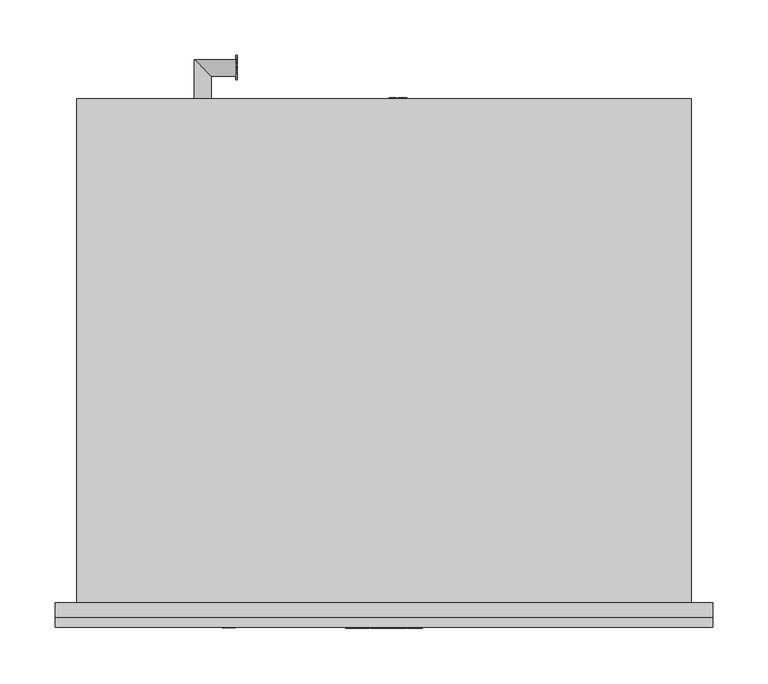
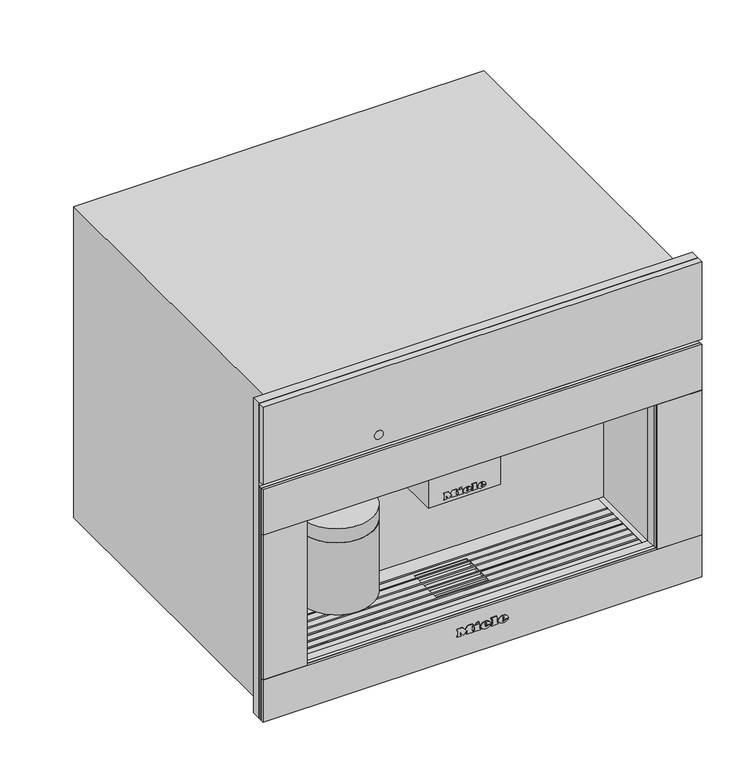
"""IFC4 building model written with IfcOpenShell, lengths in millimetres: proxy geometry, 12600410_D_CVA7845_PEBE : 29784550_D_12600410_CVA7845_PEBE."""

from ifc_helpers import new_model, si_unit, point, frame, frame_2d, origin, place, context, project, spatial, polyline, circle_curve, ellipse_curve, trimmed, segment, composite_curve, outline, extrude, faceted_brep, source, transform, mapped, element, save
from ifc_brep_helpers import plane_surface, cylinder_surface, revolved_surface, extruded_surface, advanced_brep


def specialty_equipment_d28afc98(model_context):
    return source(origin(), model_context, "Body", "SolidModel", [
        extrude(outline(composite_curve([segment(trimmed(circle_curve(frame_2d((-14.0, 36.5)), 5.0), [point((-9.0, 36.5))], [point((-19.0, 36.5))], False, "CARTESIAN"), True, "CONTINUOUS"), segment(trimmed(circle_curve(frame_2d((-14.0, 36.5)), 5.0), [point((-19.0, 36.5))], [point((-9.0, 36.5))], False, "CARTESIAN"), True, "CONTINUOUS")], self_intersect=False)), frame((0.0, 0.0, 193.0), z_axis=(0.0, 0.0, 1.0), x_axis=(1.0, 0.0, 0.0)), (0.0, 0.0, 1.0), 5.0),
        extrude(outline(composite_curve([segment(trimmed(circle_curve(frame_2d((14.0, 36.5)), 5.0), [point((19.0, 36.5))], [point((9.0, 36.5))], False, "CARTESIAN"), True, "CONTINUOUS"), segment(trimmed(circle_curve(frame_2d((14.0, 36.5)), 5.0), [point((9.0, 36.5))], [point((19.0, 36.5))], False, "CARTESIAN"), True, "CONTINUOUS")], self_intersect=False)), frame((0.0, 0.0, 193.0), z_axis=(0.0, 0.0, 1.0), x_axis=(1.0, 0.0, 0.0)), (0.0, 0.0, 1.0), 5.0),
        extrude(outline(composite_curve([segment(trimmed(circle_curve(frame_2d((-156.5, 49.5)), 50.0), [point((-106.5, 49.5))], [point((-206.5, 49.5))], False, "CARTESIAN"), True, "CONTINUOUS"), segment(trimmed(circle_curve(frame_2d((-156.5, 49.5)), 50.0), [point((-206.5, 49.5))], [point((-106.5, 49.5))], False, "CARTESIAN"), True, "CONTINUOUS")], self_intersect=False)), frame((0.0, 0.0, 100.0), z_axis=(0.0, 0.0, 1.0), x_axis=(1.0, 0.0, 0.0)), (0.0, 0.0, 1.0), 103.0),
        extrude(outline(polyline([(-49.0, 95.0), (49.0, 95.0), (49.0, 20.0), (-49.0, 20.0), (-49.0, 95.0)])), frame((0.0, 0.0, 198.0), z_axis=(0.0, 0.0, 1.0), x_axis=(1.0, 0.0, 0.0)), (0.0, 0.0, 1.0), 75.0),
        extrude(outline(polyline([(455.5, 297.5), (455.5, -297.5), (4.0, -297.5), (4.0, 297.5), (455.5, 297.5)]), holes=[polyline([(273.0, 237.5), (63.0, 237.5), (63.0, -237.5), (273.0, -237.5), (273.0, 237.5)])]), frame((0.0, -13.0, 0.0), z_axis=(0.0, 1.0, 0.0), x_axis=(0.0, 0.0, 1.0)), (0.0, 0.0, 1.0), 13.0),
        extrude(outline(polyline([(473.48348, 22.0), (473.48348, 32.045631), (474.7391839, 32.045631), (474.7391839, 27.128275), (479.8895318, 32.045631), (481.6455552, 32.045631), (477.3217155, 27.9155425), (481.8025182, 22.0), (480.267224, 22.0), (476.4314411, 27.0669613), (474.7391839, 25.4531857), (474.7391839, 22.0), (473.48348, 22.0)])), frame((-134.0, 0.0, 0.0), z_axis=(1.0, 0.0, 0.0), x_axis=(0.0, 1.0, 0.0)), (0.0, 0.0, 1.0), 1.0),
        extrude(outline(polyline([(484.5420128, 22.0), (481.8025182, 32.045631), (483.0974628, 32.045631), (484.6867131, 25.4433755), (485.1772224, 23.4053092), (485.7020674, 25.207931), (487.6935352, 32.045631), (489.5599232, 32.045631), (491.0069257, 27.0890343), (492.0835937, 23.4053092), (492.5593878, 25.3845144), (494.1633533, 32.045631), (495.4582979, 32.045631), (492.7163507, 22.0), (491.3748077, 22.0), (488.9664069, 29.7500474), (488.630408, 30.8316204), (488.2527159, 29.5293182), (486.0576866, 22.0), (484.5420128, 22.0)])), frame((-134.0, 0.0, 0.0), z_axis=(1.0, 0.0, 0.0), x_axis=(0.0, 1.0, 0.0)), (0.0, 0.0, 1.0), 1.0),
        advanced_brep(
        [(-156.5, 456.0, 27.0), (-171.5, 456.0, 27.0), (-156.5, 476.5, 27.0), (-171.5, 491.5, 27.0), (-134.0, 476.5, 27.0), (-134.0, 491.5, 27.0)],
        [
            (0, 1, circle_curve(frame((-164.0, 456.0, 27.0), z_axis=(0.0, -1.0, 0.0), x_axis=(-1.0, 0.0, 0.0)), 7.5)),
            (1, 0, circle_curve(frame((-164.0, 456.0, 27.0), z_axis=(0.0, -1.0, 0.0), x_axis=(-1.0, 0.0, 0.0)), 7.5)),
            (0, 2),
            (2, 3, ellipse_curve(frame((-164.0, 484.0, 27.0), z_axis=(-0.707106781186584, -0.7071067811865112, 0.0), x_axis=(0.7071067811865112, -0.7071067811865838, 0.0)), 10.6066017, 7.5)),
            (3, 1),
            (3, 2, ellipse_curve(frame((-164.0, 484.0, 27.0), z_axis=(-0.707106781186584, -0.7071067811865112, 0.0), x_axis=(0.7071067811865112, -0.7071067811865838, 0.0)), 10.6066017, 7.5)),
            (4, 5, circle_curve(frame((-134.0, 484.0, 27.0), z_axis=(1.0, 0.0, 0.0), x_axis=(0.0, 1.0, 0.0)), 7.5)),
            (5, 4, circle_curve(frame((-134.0, 484.0, 27.0), z_axis=(1.0, 0.0, 0.0), x_axis=(0.0, 1.0, 0.0)), 7.5)),
            (2, 4),
            (5, 3),
        ],
        [
            plane_surface(frame((-164.0, 456.0, 27.0), z_axis=(0.0, -1.0, 0.0), x_axis=(0.0, 0.0, 1.0))),
            cylinder_surface(frame((-164.0, 456.0, 27.0), z_axis=(0.0, -1.0, 0.0), x_axis=(-1.0, 0.0, 0.0)), 7.5),
            plane_surface(frame((-134.0, 484.0, 27.0), z_axis=(1.0, 0.0, 0.0), x_axis=(0.0, 0.0, 1.0))),
            cylinder_surface(frame((-164.0, 484.0, 27.0), z_axis=(-1.0, 0.0, 0.0), x_axis=(0.0, 1.0, 0.0)), 7.5),
        ],
        [
            (0, [[1, 2]]),
            (1, [[-1, 3, 4, 5]]),
            (1, [[-2, -5, 6, -3]]),
            (2, [[7, 8]]),
            (3, [[-4, 9, -8, 10]]),
            (3, [[-6, -10, -7, -9]]),
        ],
    ),
        extrude(outline(polyline([(97.0, 20.4012141), (107.045631, 20.4012141), (107.045631, 13.1809168), (105.7899271, 13.1809168), (105.7899271, 19.1455102), (102.8076304, 19.1455102), (102.8076304, 13.4948427), (101.5519266, 13.4948427), (101.5519266, 19.1455102), (98.2557039, 19.1455102), (98.2557039, 13.0239538), (97.0, 13.0239538), (97.0, 20.4012141)])), frame((0.0, 456.0, 0.0), z_axis=(0.0, 1.0, 0.0), x_axis=(0.0, 0.0, 1.0)), (0.0, 0.0, 1.0), 1.0),
        extrude(outline(polyline([(97.0, 11.140398), (107.045631, 11.140398), (107.045631, 9.8846941), (98.2557039, 9.8846941), (98.2557039, 4.8618786), (97.0, 4.8618786), (97.0, 11.140398)])), frame((0.0, 456.0, 0.0), z_axis=(0.0, 1.0, 0.0), x_axis=(0.0, 0.0, 1.0)), (0.0, 0.0, 1.0), 1.0),
        advanced_brep(
        [(55.0, 425.5, 102.0), (55.0, 410.5, 102.0), (20.5239538, 425.5, 102.0), (5.5239538, 410.5, 102.0), (20.5239538, 456.0, 102.0), (5.5239538, 456.0, 102.0)],
        [
            (0, 1, circle_curve(frame((55.0, 418.0, 102.0), z_axis=(1.0, 0.0, 0.0), x_axis=(0.0, -1.0, 0.0)), 7.5)),
            (1, 0, circle_curve(frame((55.0, 418.0, 102.0), z_axis=(1.0, 0.0, 0.0), x_axis=(0.0, -1.0, 0.0)), 7.5)),
            (0, 2),
            (2, 3, ellipse_curve(frame((13.0239538, 418.0, 102.0), z_axis=(0.7071067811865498, -0.7071067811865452, 0.0), x_axis=(0.7071067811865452, 0.7071067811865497, 0.0)), 10.6066017, 7.5)),
            (3, 1),
            (3, 2, ellipse_curve(frame((13.0239538, 418.0, 102.0), z_axis=(0.7071067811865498, -0.7071067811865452, 0.0), x_axis=(0.7071067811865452, 0.7071067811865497, 0.0)), 10.6066017, 7.5)),
            (4, 5, circle_curve(frame((13.0239538, 456.0, 102.0), z_axis=(0.0, 1.0, 0.0), x_axis=(-1.0, 0.0, 0.0)), 7.5)),
            (5, 4, circle_curve(frame((13.0239538, 456.0, 102.0), z_axis=(0.0, 1.0, 0.0), x_axis=(-1.0, 0.0, 0.0)), 7.5)),
            (2, 4),
            (5, 3),
        ],
        [
            plane_surface(frame((55.0, 418.0, 102.0), z_axis=(1.0, 0.0, 0.0), x_axis=(0.0, 0.0, 1.0))),
            cylinder_surface(frame((55.0, 418.0, 102.0), z_axis=(1.0, 0.0, 0.0), x_axis=(0.0, -1.0, 0.0)), 7.5),
            plane_surface(frame((13.0239538, 456.0, 102.0), z_axis=(0.0, 1.0, 0.0), x_axis=(0.0, 0.0, 1.0))),
            cylinder_surface(frame((13.0239538, 418.0, 102.0), z_axis=(0.0, -1.0, 0.0), x_axis=(-1.0, 0.0, 0.0)), 7.5),
        ],
        [
            (0, [[1, 2]]),
            (1, [[-1, 3, 4, 5]]),
            (1, [[-2, -5, 6, -3]]),
            (2, [[7, 8]]),
            (3, [[-4, 9, -8, 10]]),
            (3, [[-6, -10, -7, -9]]),
        ],
    ),
        advanced_brep(
        [(-110.0, 49.5, 252.0), (-203.0, 49.5, 252.0), (-206.5, 49.5, 223.5), (-106.5, 49.5, 223.5), (-110.0, 49.5, 273.0), (-203.0, 49.5, 273.0), (-156.5, 49.5, 273.0), (-106.5, 49.5, 203.0), (-206.5, 49.5, 203.0), (-156.5, 49.5, 203.0)],
        [
            (0, 1, circle_curve(frame((-156.5, 49.5, 252.0), z_axis=(0.0, 0.0, -1.0), x_axis=(-1.0, 0.0, 0.0)), 46.5)),
            (1, 2, circle_curve(frame((-206.7961166, 49.5, 238.0012775), z_axis=(0.0, 1.0, 0.0), x_axis=(-1.0, 0.0, 0.0)), 14.5043005)),
            (2, 3, circle_curve(frame((-156.5, 49.5, 223.5), z_axis=(0.0, 0.0, 1.0), x_axis=(-1.0, 0.0, 0.0)), 50.0)),
            (3, 0, circle_curve(frame((-106.2038834, 49.5, 238.0012775), z_axis=(0.0, 1.0, 0.0), x_axis=(1.0, 0.0, 0.0)), 14.5043005)),
            (4, 5, circle_curve(frame((-156.5, 49.5, 273.0), z_axis=(0.0, 0.0, -1.0), x_axis=(-1.0, 0.0, 0.0)), 46.5)),
            (5, 1),
            (0, 4),
            (6, 4),
            (4, 5, circle_curve(frame((-156.5, 49.5, 273.0), z_axis=(0.0, 0.0, 1.0), x_axis=(-1.0, 0.0, 0.0)), 46.5)),
            (5, 6),
            (7, 8, circle_curve(frame((-156.5, 49.5, 203.0), z_axis=(0.0, 0.0, -1.0), x_axis=(-1.0, 0.0, 0.0)), 50.0)),
            (8, 9),
            (9, 7),
            (8, 7, circle_curve(frame((-156.5, 49.5, 203.0), z_axis=(0.0, 0.0, -1.0), x_axis=(-1.0, 0.0, 0.0)), 50.0)),
            (2, 8),
            (7, 3),
            (2, 3, circle_curve(frame((-156.5, 49.5, 223.5), z_axis=(0.0, 0.0, -1.0), x_axis=(-1.0, 0.0, 0.0)), 50.0)),
            (1, 0, circle_curve(frame((-156.5, 49.5, 252.0), z_axis=(0.0, 0.0, -1.0), x_axis=(-1.0, 0.0, 0.0)), 46.5)),
        ],
        [
            revolved_surface(trimmed(ellipse_curve(frame((-206.7961166, 49.5, 238.0012775), z_axis=(0.0, -1.0, 0.0), x_axis=(-1.0, 0.0, 0.0)), 14.5043005, 14.5043005), [point((-206.5, 49.5, 223.5))], [point((-203.0, 49.5, 252.0))], True, "CARTESIAN"), (-156.5, 49.5, 388.7361736), (0.0, 0.0, 1.0)),
            cylinder_surface(frame((-156.5, 49.5, 388.7361736), z_axis=(0.0, 0.0, 1.0), x_axis=(-1.0, 0.0, 0.0)), 46.5),
            plane_surface(frame((-156.5, 49.5, 273.0), z_axis=(0.0, 0.0, 1.0), x_axis=(-1.0, 0.0, 0.0))),
            plane_surface(frame((-156.5, 49.5, 203.0), z_axis=(0.0, 0.0, -1.0), x_axis=(-1.0, 0.0, 0.0))),
            cylinder_surface(frame((-156.5, 49.5, 388.7361736), z_axis=(0.0, 0.0, 1.0), x_axis=(-1.0, 0.0, 0.0)), 50.0),
        ],
        [
            (0, [[1, 2, 3, 4]]),
            (1, [[5, 6, -1, 7]]),
            (2, [[8, 9, 10]]),
            (3, [[11, 12, 13]]),
            (3, [[14, -13, -12]]),
            (4, [[-3, 15, -11, 16]]),
            (4, [[17, -16, -14, -15]]),
            (0, [[18, -4, -17, -2]]),
            (1, [[-9, -7, -18, -6]]),
            (2, [[-10, -5, -8]]),
        ],
    ),
        faceted_brep([(229.5, 82.0925571, 60.0), (229.5, 80.0925571, 60.0), (-229.5, 80.0925571, 60.0), (-229.5, 82.0925571, 60.0), (229.5, 70.0550731, 60.0), (229.5, 68.0550731, 60.0), (-229.5, 68.0550731, 60.0), (-229.5, 70.0550731, 60.0), (229.5, 58.0175891, 60.0), (229.5, 56.0175891, 60.0), (-229.5, 56.0175891, 60.0), (-229.5, 58.0175891, 60.0), (229.5, 45.9801052, 60.0), (229.5, 43.9801052, 60.0), (-229.5, 43.9801052, 60.0), (-229.5, 45.9801052, 60.0), (229.5, 33.9426212, 60.0), (229.5, 31.9426212, 60.0), (-229.5, 31.9426212, 60.0), (-229.5, 33.9426212, 60.0), (229.5, 21.9776522, 60.0), (229.5, 19.9776522, 60.0), (-229.5, 19.9776522, 60.0), (-229.5, 21.9776522, 60.0), (229.5, 10.0, 60.0), (229.5, 8.0, 60.0), (-229.5, 8.0, 60.0), (-229.5, 10.0, 60.0), (-229.5, 45.9801052, 62.0), (-36.0, 45.9801052, 62.0), (-36.0, 45.9801052, 63.0), (-229.5, 45.9801052, 63.0), (-229.5, 45.9801052, 63.5), (229.5, 45.9801052, 63.5), (229.5, 45.9801052, 63.0), (36.0, 45.9801052, 63.0), (36.0, 45.9801052, 62.0), (229.5, 45.9801052, 62.0), (229.5, 19.9776522, 62.0), (229.5, 10.0, 62.0), (-229.5, 10.0, 62.0), (-229.5, 19.9776522, 62.0), (229.5, 43.9801052, 62.0), (229.5, 33.9426212, 62.0), (36.0, 33.9426212, 62.0), (36.0, 43.9801052, 62.0), (229.5, 56.0175891, 62.0), (36.0, 56.0175891, 62.0), (229.5, 68.0550731, 62.0), (229.5, 58.0175891, 62.0), (36.0, 58.0175891, 62.0), (36.0, 68.0550731, 62.0), (-229.5, 33.9426212, 62.0), (-229.5, 43.9801052, 62.0), (-36.0, 43.9801052, 62.0), (-36.0, 33.9426212, 62.0), (-229.5, 56.0175891, 62.0), (-36.0, 56.0175891, 62.0), (-229.5, 58.0175891, 62.0), (-229.5, 68.0550731, 62.0), (-36.0, 68.0550731, 62.0), (-36.0, 58.0175891, 62.0), (-229.5, 104.5, 62.0), (229.5, 104.5, 62.0), (229.5, 82.0925571, 62.0), (-229.5, 82.0925571, 62.0), (36.0, 76.0, 62.0), (-36.0, 76.0, 62.0), (-36.0, 70.0550731, 62.0), (-229.5, 70.0550731, 62.0), (-229.5, 80.0925571, 62.0), (229.5, 80.0925571, 62.0), (229.5, 70.0550731, 62.0), (36.0, 70.0550731, 62.0), (229.5, 0.0, 62.0), (-229.5, 0.0, 62.0), (-229.5, 8.0, 62.0), (229.5, 8.0, 62.0), (-36.0, 25.0, 62.0), (36.0, 25.0, 62.0), (36.0, 31.9426212, 62.0), (229.5, 31.9426212, 62.0), (229.5, 21.9776522, 62.0), (-229.5, 21.9776522, 62.0), (-229.5, 31.9426212, 62.0), (-36.0, 31.9426212, 62.0), (229.5, 104.5, 63.0), (-229.5, 104.5, 63.0), (-229.5, 82.0925571, 63.0), (229.5, 82.0925571, 63.0), (-229.5, 0.0, 63.0), (229.5, 0.0, 63.0), (229.5, 8.0, 63.0), (-229.5, 8.0, 63.0), (-36.0, 76.0, 63.0), (36.0, 76.0, 63.0), (36.0, 70.0550731, 63.0), (229.5, 70.0550731, 63.0), (229.5, 80.0925571, 63.0), (-229.5, 80.0925571, 63.0), (-229.5, 70.0550731, 63.0), (-36.0, 70.0550731, 63.0), (36.0, 25.0, 63.0), (-36.0, 25.0, 63.0), (-36.0, 31.9426212, 63.0), (-229.5, 31.9426212, 63.0), (-229.5, 21.9776522, 63.0), (229.5, 21.9776522, 63.0), (229.5, 31.9426212, 63.0), (36.0, 31.9426212, 63.0), (-229.5, 19.9776522, 63.0), (-229.5, 10.0, 63.0), (229.5, 10.0, 63.0), (229.5, 19.9776522, 63.0), (-229.5, 43.9801052, 63.0), (-229.5, 33.9426212, 63.0), (-36.0, 33.9426212, 63.0), (-36.0, 43.9801052, 63.0), (-229.5, 56.0175891, 63.0), (-36.0, 56.0175891, 63.0), (-229.5, 68.0550731, 63.0), (-229.5, 58.0175891, 63.0), (-36.0, 58.0175891, 63.0), (-36.0, 68.0550731, 63.0), (229.5, 33.9426212, 63.0), (229.5, 43.9801052, 63.0), (36.0, 43.9801052, 63.0), (36.0, 33.9426212, 63.0), (229.5, 56.0175891, 63.0), (36.0, 56.0175891, 63.0), (229.5, 58.0175891, 63.0), (229.5, 68.0550731, 63.0), (36.0, 68.0550731, 63.0), (36.0, 58.0175891, 63.0), (-229.5, 8.0, 63.5), (-229.5, 10.0, 63.5), (-229.5, 19.9776522, 63.5), (-229.5, 21.9776522, 63.5), (-229.5, 31.9426212, 63.5), (-229.5, 33.9426212, 63.5), (-229.5, 43.9801052, 63.5), (-229.5, 56.0175891, 63.5), (-229.5, 58.0175891, 63.5), (-229.5, 68.0550731, 63.5), (-229.5, 70.0550731, 63.5), (-229.5, 80.0925571, 63.5), (-229.5, 82.0925571, 63.5), (229.5, 82.0925571, 63.5), (229.5, 80.0925571, 63.5), (229.5, 70.0550731, 63.5), (229.5, 68.0550731, 63.5), (229.5, 58.0175891, 63.5), (229.5, 56.0175891, 63.5), (229.5, 43.9801052, 63.5), (229.5, 33.9426212, 63.5), (229.5, 31.9426212, 63.5), (229.5, 21.9776522, 63.5), (229.5, 19.9776522, 63.5), (229.5, 10.0, 63.5), (229.5, 8.0, 63.5)], [[[0, 1, 2, 3]], [[4, 5, 6, 7]], [[8, 9, 10, 11]], [[12, 13, 14, 15]], [[16, 17, 18, 19]], [[20, 21, 22, 23]], [[24, 25, 26, 27]], [[12, 15, 28, 29, 30, 31, 32, 33, 34, 35, 36, 37]], [[38, 39, 40, 41]], [[42, 43, 44, 45]], [[46, 37, 36, 47]], [[48, 49, 50, 51]], [[52, 53, 54, 55]], [[28, 56, 57, 29]], [[58, 59, 60, 61]], [[62, 63, 64, 65]], [[66, 67, 68, 69, 70, 71, 72, 73]], [[74, 75, 76, 77]], [[78, 79, 80, 81, 82, 83, 84, 85]], [[86, 87, 88, 89]], [[90, 91, 92, 93]], [[94, 95, 96, 97, 98, 99, 100, 101]], [[102, 103, 104, 105, 106, 107, 108, 109]], [[110, 111, 112, 113]], [[114, 115, 116, 117]], [[118, 31, 30, 119]], [[120, 121, 122, 123]], [[124, 125, 126, 127]], [[34, 128, 129, 35]], [[130, 131, 132, 133]], [[63, 62, 87, 86]], [[87, 62, 65, 3, 2, 70, 69, 7, 6, 59, 58, 11, 10, 56, 28, 15, 14, 53, 52, 19, 18, 84, 83, 23, 22, 41, 40, 27, 26, 76, 75, 90, 93, 134, 135, 111, 110, 136, 137, 106, 105, 138, 139, 115, 114, 140, 32, 31, 118, 141, 142, 121, 120, 143, 144, 100, 99, 145, 146, 88]], [[75, 74, 91, 90]], [[63, 86, 89, 147, 148, 98, 97, 149, 150, 131, 130, 151, 152, 128, 34, 33, 153, 125, 124, 154, 155, 108, 107, 156, 157, 113, 112, 158, 159, 92, 91, 74, 77, 25, 24, 39, 38, 21, 20, 82, 81, 17, 16, 43, 42, 13, 12, 37, 46, 9, 8, 49, 48, 5, 4, 72, 71, 1, 0, 64]], [[66, 95, 94, 67]], [[55, 54, 117, 116]], [[29, 57, 119, 30]], [[61, 60, 123, 122]], [[67, 94, 101, 68]], [[103, 78, 85, 104]], [[78, 103, 102, 79]], [[45, 44, 127, 126]], [[47, 36, 35, 129]], [[51, 50, 133, 132]], [[95, 66, 73, 96]], [[79, 102, 109, 80]], [[158, 135, 134, 159]], [[156, 137, 136, 157]], [[154, 139, 138, 155]], [[33, 32, 140, 153]], [[151, 142, 141, 152]], [[149, 144, 143, 150]], [[147, 146, 145, 148]], [[24, 27, 40, 39]], [[135, 158, 112, 111]], [[26, 25, 77, 76]], [[159, 134, 93, 92]], [[20, 23, 83, 82]], [[137, 156, 107, 106]], [[22, 21, 38, 41]], [[157, 136, 110, 113]], [[16, 19, 52, 55, 116, 115, 139, 154, 124, 127, 44, 43]], [[18, 17, 81, 80, 109, 108, 155, 138, 105, 104, 85, 84]], [[14, 13, 42, 45, 126, 125, 153, 140, 114, 117, 54, 53]], [[8, 11, 58, 61, 122, 121, 142, 151, 130, 133, 50, 49]], [[10, 9, 46, 47, 129, 128, 152, 141, 118, 119, 57, 56]], [[4, 7, 69, 68, 101, 100, 144, 149, 97, 96, 73, 72]], [[6, 5, 48, 51, 132, 131, 150, 143, 120, 123, 60, 59]], [[0, 3, 65, 64]], [[146, 147, 89, 88]], [[2, 1, 71, 70]], [[148, 145, 99, 98]]]),
        faceted_brep([(-278.0, 456.0, 0.0), (-278.0, 0.0, 0.0), (-278.0, 0.0, 446.0), (-278.0, 456.0, 446.0), (278.0, 456.0, 0.0), (278.0, 456.0, 446.0), (278.0, 0.0, 446.0), (278.0, 0.0, 0.0), (55.0, 456.0, 133.0), (-22.0, 456.0, 133.0), (-22.0, 456.0, 89.0), (35.0, 456.0, 66.0), (55.0, 456.0, 66.0), (-36.0, 76.0, 58.0), (36.0, 76.0, 58.0), (36.0, 76.0, 62.0), (-36.0, 76.0, 62.0), (36.0, 25.0, 58.0), (-36.0, 25.0, 58.0), (-36.0, 25.0, 62.0), (36.0, 25.0, 62.0), (237.5, 0.0, 273.0), (237.5, 0.0, 63.0), (229.5, 0.0, 63.0), (229.5, 0.0, 62.0), (-229.5, 0.0, 62.0), (-229.5, 0.0, 63.0), (-237.5, 0.0, 63.0), (-237.5, 0.0, 273.0), (237.5, 104.5, 273.0), (-237.5, 104.5, 273.0), (-237.5, 104.5, 63.0), (-229.5, 104.5, 63.0), (-229.5, 104.5, 62.0), (229.5, 104.5, 62.0), (229.5, 104.5, 63.0), (237.5, 104.5, 63.0), (-22.0, 400.0, 133.0), (55.0, 400.0, 133.0), (55.0, 400.0, 66.0), (35.0, 400.0, 66.0), (-22.0, 400.0, 89.0)], [[[0, 1, 2, 3]], [[4, 5, 6, 7]], [[0, 3, 5, 4], [8, 9, 10, 11, 12]], [[13, 14, 15, 16]], [[17, 18, 19, 20]], [[3, 2, 6, 5]], [[2, 1, 7, 6], [21, 22, 23, 24, 25, 26, 27, 28]], [[1, 0, 4, 7]], [[29, 30, 31, 32, 33, 34, 35, 36]], [[29, 36, 22, 21]], [[22, 36, 35, 23]], [[31, 27, 26, 32]], [[31, 30, 28, 27]], [[30, 29, 21, 28]], [[34, 33, 25, 24], [16, 15, 20, 19]], [[25, 33, 32, 26]], [[34, 24, 23, 35]], [[14, 13, 18, 17]], [[18, 13, 16, 19]], [[14, 17, 20, 15]], [[37, 38, 39, 40, 41]], [[38, 37, 9, 8]], [[39, 38, 8, 12]], [[40, 39, 12, 11]], [[41, 40, 11, 10]], [[37, 41, 10, 9]]]),
        advanced_brep(
        [(27.088, -23.0, 36.7018), (27.088, -23.0, 37.8532), (34.7146, -23.0, 37.8532), (21.445, -23.0, 37.8532), (24.58, -23.0, 34.0), (34.5208, -23.0, 36.7018), (31.078, -23.0, 36.7018), (28.3648, -23.0, 35.425), (27.088, -23.0, 39.3124), (27.088, -23.0, 40.555), (29.0374, -23.0, 40.555), (29.0374, -23.0, 39.3124), (27.088, -22.0, 36.7018), (28.3648, -22.0, 35.425), (31.078, -22.0, 36.7018), (34.5208, -22.0, 36.7018), (24.58, -22.0, 34.0), (21.445, -22.0, 37.8532), (34.7146, -22.0, 37.8532), (27.088, -22.0, 37.8532), (27.088, -22.0, 39.3124), (29.0374, -22.0, 39.3124), (29.0374, -22.0, 40.555), (27.088, -22.0, 40.555)],
        [
            (0, 1),
            (1, 2),
            (2, 3, ellipse_curve(frame((28.0798, -23.0, 37.8532), z_axis=(0.0, -1.0, 0.0), x_axis=(-1.0, 0.0, 0.0)), 6.6348, 5.4834)),
            (3, 4, circle_curve(frame((25.8568622, -23.0, 38.2408), z_axis=(0.0, -1.0, 0.0), x_axis=(0.0, 0.0, -1.0)), 4.4288556)),
            (4, 5, circle_curve(frame((27.9469808, -23.0, 41.2504), z_axis=(0.0, -1.0, 0.0), x_axis=(0.0, 0.0, -1.0)), 7.9940516)),
            (5, 6),
            (6, 7, circle_curve(frame((28.9220588, -23.0, 37.762), z_axis=(0.0, 1.0, 0.0), x_axis=(0.0, 0.0, -1.0)), 2.4025208)),
            (7, 0, circle_curve(frame((28.3648, -23.0, 36.7018), z_axis=(0.0, 1.0, 0.0), x_axis=(0.0, 0.0, -1.0)), 1.2768)),
            (8, 9),
            (9, 10, circle_curve(frame((28.0627, -23.0, 40.555), z_axis=(0.0, 1.0, 0.0), x_axis=(0.0, 0.0, -1.0)), 0.9747)),
            (10, 11),
            (11, 8),
            (12, 13, circle_curve(frame((28.3648, -22.0, 36.7018), z_axis=(0.0, -1.0, 0.0), x_axis=(0.0, 0.0, -1.0)), 1.2768)),
            (13, 14, circle_curve(frame((28.9220588, -22.0, 37.762), z_axis=(0.0, -1.0, 0.0), x_axis=(0.0, 0.0, -1.0)), 2.4025208)),
            (14, 15),
            (15, 16, circle_curve(frame((27.9469808, -22.0, 41.2504), z_axis=(0.0, 1.0, 0.0), x_axis=(0.0, 0.0, -1.0)), 7.9940516)),
            (16, 17, circle_curve(frame((25.8568622, -22.0, 38.2408), z_axis=(0.0, 1.0, 0.0), x_axis=(0.0, 0.0, -1.0)), 4.4288556)),
            (17, 18, ellipse_curve(frame((28.0798, -22.0, 37.8532), z_axis=(0.0, 1.0, 0.0), x_axis=(-1.0, 0.0, 0.0)), 6.6348, 5.4834)),
            (18, 19),
            (19, 12),
            (20, 21),
            (21, 22),
            (22, 23, circle_curve(frame((28.0627, -22.0, 40.555), z_axis=(0.0, -1.0, 0.0), x_axis=(0.0, 0.0, -1.0)), 0.9747)),
            (23, 20),
            (0, 12),
            (19, 1),
            (18, 2),
            (5, 15),
            (14, 6),
            (17, 3),
            (13, 7),
            (16, 4),
            (8, 20),
            (23, 9),
            (22, 10),
            (21, 11),
        ],
        [
            plane_surface(frame((27.088, -23.0, 37.8532), z_axis=(0.0, -1.0, 0.0), x_axis=(0.0, 0.0, 1.0))),
            plane_surface(frame((27.088, -22.0, 37.8532), z_axis=(0.0, 1.0, 0.0), x_axis=(0.0, 0.0, -1.0))),
            plane_surface(frame((27.088, -23.0, 36.7018), z_axis=(1.0, 0.0, 0.0), x_axis=(0.0, 1.0, 0.0))),
            plane_surface(frame((27.088, -23.0, 37.8532), z_axis=(0.0, 0.0, -1.0), x_axis=(0.0, 1.0, 0.0))),
            plane_surface(frame((34.5208, -23.0, 36.7018), z_axis=(0.0, 0.0, 1.0), x_axis=(0.0, 1.0, 0.0))),
            extruded_surface(trimmed(ellipse_curve(frame((28.0798, -21.0, 37.8532), z_axis=(0.0, -1.0, 0.0), x_axis=(-1.0, 0.0, 0.0)), 6.6348, 5.4834), [point((34.7146, -21.0, 37.8532))], [point((21.445, -21.0, 37.8532))], True, "CARTESIAN"), (0.0, -1.0, 0.0), 1.0),
            revolved_surface(polyline([(28.9220588, -22.0, 35.3594792), (28.9220588, -23.0, 35.3594792)]), (28.9220588, -22.0, 37.762), (0.0, 1.0, 0.0)),
            revolved_surface(polyline([(28.3648, -22.0, 35.425), (28.3648, -23.0, 35.425)]), (28.3648, -22.0, 36.7018), (0.0, 1.0, 0.0)),
            cylinder_surface(frame((25.8568622, -22.0, 38.2408), z_axis=(0.0, -1.0, 0.0), x_axis=(0.0, 0.0, -1.0)), 4.4288556),
            cylinder_surface(frame((27.9469808, -22.0, 41.2504), z_axis=(0.0, -1.0, 0.0), x_axis=(0.0, 0.0, -1.0)), 7.9940516),
            plane_surface(frame((27.088, -23.0, 39.3124), z_axis=(1.0, 0.0, 0.0), x_axis=(0.0, 1.0, 0.0))),
            revolved_surface(polyline([(28.0627, -22.0, 39.5803), (28.0627, -23.0, 39.5803)]), (28.0627, -22.0, 40.555), (0.0, 1.0, 0.0)),
            plane_surface(frame((29.0374, -23.0, 40.555), z_axis=(-1.0, 0.0, 0.0), x_axis=(0.0, 1.0, 0.0))),
            plane_surface(frame((29.0374, -23.0, 39.3124), z_axis=(0.0, 0.0, 1.0), x_axis=(0.0, 1.0, 0.0))),
        ],
        [
            (0, [[1, 2, 3, 4, 5, 6, 7, 8], [9, 10, 11, 12]]),
            (1, [[13, 14, 15, 16, 17, 18, 19, 20], [21, 22, 23, 24]]),
            (2, [[-1, 25, -20, 26]]),
            (3, [[-2, -26, -19, 27]]),
            (4, [[-6, 28, -15, 29]]),
            (5, [[-3, -27, -18, 30]]),
            (6, [[-7, -29, -14, 31]]),
            (7, [[-8, -31, -13, -25]]),
            (8, [[-4, -30, -17, 32]]),
            (9, [[-5, -32, -16, -28]]),
            (10, [[-9, 33, -24, 34]]),
            (11, [[-10, -34, -23, 35]]),
            (12, [[-11, -35, -22, 36]]),
            (13, [[-12, -36, -21, -33]]),
        ],
    ),
        advanced_brep(
        [(3.2962, -23.0, 36.7018), (3.2962, -23.0, 37.8532), (10.9228, -23.0, 37.8532), (-2.3468, -23.0, 37.8532), (0.7882, -23.0, 34.0), (10.729, -23.0, 36.7018), (7.2862, -23.0, 36.7018), (4.573, -23.0, 35.425), (3.2962, -23.0, 39.3124), (3.2962, -23.0, 40.555), (5.2456, -23.0, 40.555), (5.2456, -23.0, 39.3124), (3.2962, -22.0, 36.7018), (4.573, -22.0, 35.425), (7.2862, -22.0, 36.7018), (10.729, -22.0, 36.7018), (0.7882, -22.0, 34.0), (-2.3468, -22.0, 37.8532), (10.9228, -22.0, 37.8532), (3.2962, -22.0, 37.8532), (3.2962, -22.0, 39.3124), (5.2456, -22.0, 39.3124), (5.2456, -22.0, 40.555), (3.2962, -22.0, 40.555)],
        [
            (0, 1),
            (1, 2),
            (2, 3, ellipse_curve(frame((4.288, -23.0, 37.8532), z_axis=(0.0, -1.0, 0.0), x_axis=(-1.0, 0.0, 0.0)), 6.6348, 5.4834)),
            (3, 4, circle_curve(frame((2.0650622, -23.0, 38.2408), z_axis=(0.0, -1.0, 0.0), x_axis=(0.0, 0.0, -1.0)), 4.4288556)),
            (4, 5, circle_curve(frame((4.1551808, -23.0, 41.2504), z_axis=(0.0, -1.0, 0.0), x_axis=(0.0, 0.0, -1.0)), 7.9940516)),
            (5, 6),
            (6, 7, circle_curve(frame((5.1302588, -23.0, 37.762), z_axis=(0.0, 1.0, 0.0), x_axis=(0.0, 0.0, -1.0)), 2.4025208)),
            (7, 0, circle_curve(frame((4.573, -23.0, 36.7018), z_axis=(0.0, 1.0, 0.0), x_axis=(0.0, 0.0, -1.0)), 1.2768)),
            (8, 9),
            (9, 10, circle_curve(frame((4.2709, -23.0, 40.555), z_axis=(0.0, 1.0, 0.0), x_axis=(0.0, 0.0, -1.0)), 0.9747)),
            (10, 11),
            (11, 8),
            (12, 13, circle_curve(frame((4.573, -22.0, 36.7018), z_axis=(0.0, -1.0, 0.0), x_axis=(0.0, 0.0, -1.0)), 1.2768)),
            (13, 14, circle_curve(frame((5.1302588, -22.0, 37.762), z_axis=(0.0, -1.0, 0.0), x_axis=(0.0, 0.0, -1.0)), 2.4025208)),
            (14, 15),
            (15, 16, circle_curve(frame((4.1551808, -22.0, 41.2504), z_axis=(0.0, 1.0, 0.0), x_axis=(0.0, 0.0, -1.0)), 7.9940516)),
            (16, 17, circle_curve(frame((2.0650622, -22.0, 38.2408), z_axis=(0.0, 1.0, 0.0), x_axis=(0.0, 0.0, -1.0)), 4.4288556)),
            (17, 18, ellipse_curve(frame((4.288, -22.0, 37.8532), z_axis=(0.0, 1.0, 0.0), x_axis=(-1.0, 0.0, 0.0)), 6.6348, 5.4834)),
            (18, 19),
            (19, 12),
            (20, 21),
            (21, 22),
            (22, 23, circle_curve(frame((4.2709, -22.0, 40.555), z_axis=(0.0, -1.0, 0.0), x_axis=(0.0, 0.0, -1.0)), 0.9747)),
            (23, 20),
            (0, 12),
            (19, 1),
            (18, 2),
            (5, 15),
            (14, 6),
            (17, 3),
            (13, 7),
            (16, 4),
            (8, 20),
            (23, 9),
            (22, 10),
            (21, 11),
        ],
        [
            plane_surface(frame((3.2962, -23.0, 37.8532), z_axis=(0.0, -1.0, 0.0), x_axis=(0.0, 0.0, 1.0))),
            plane_surface(frame((3.2962, -22.0, 37.8532), z_axis=(0.0, 1.0, 0.0), x_axis=(0.0, 0.0, -1.0))),
            plane_surface(frame((3.2962, -23.0, 36.7018), z_axis=(1.0, 0.0, 0.0), x_axis=(0.0, 1.0, 0.0))),
            plane_surface(frame((3.2962, -23.0, 37.8532), z_axis=(0.0, 0.0, -1.0), x_axis=(0.0, 1.0, 0.0))),
            plane_surface(frame((10.729, -23.0, 36.7018), z_axis=(0.0, 0.0, 1.0), x_axis=(0.0, 1.0, 0.0))),
            extruded_surface(trimmed(ellipse_curve(frame((4.288, -21.0, 37.8532), z_axis=(0.0, -1.0, 0.0), x_axis=(-1.0, 0.0, 0.0)), 6.6348, 5.4834), [point((10.9228, -21.0, 37.8532))], [point((-2.3468, -21.0, 37.8532))], True, "CARTESIAN"), (0.0, -1.0, 0.0), 1.0),
            revolved_surface(polyline([(5.1302588, -22.0, 35.3594792), (5.1302588, -23.0, 35.3594792)]), (5.1302588, -22.0, 37.762), (0.0, 1.0, 0.0)),
            revolved_surface(polyline([(4.573, -22.0, 35.425), (4.573, -23.0, 35.425)]), (4.573, -22.0, 36.7018), (0.0, 1.0, 0.0)),
            cylinder_surface(frame((2.0650622, -22.0, 38.2408), z_axis=(0.0, -1.0, 0.0), x_axis=(0.0, 0.0, -1.0)), 4.4288556),
            cylinder_surface(frame((4.1551808, -22.0, 41.2504), z_axis=(0.0, -1.0, 0.0), x_axis=(0.0, 0.0, -1.0)), 7.9940516),
            plane_surface(frame((3.2962, -23.0, 39.3124), z_axis=(1.0, 0.0, 0.0), x_axis=(0.0, 1.0, 0.0))),
            revolved_surface(polyline([(4.2709, -22.0, 39.5803), (4.2709, -23.0, 39.5803)]), (4.2709, -22.0, 40.555), (0.0, 1.0, 0.0)),
            plane_surface(frame((5.2456, -23.0, 40.555), z_axis=(-1.0, 0.0, 0.0), x_axis=(0.0, 1.0, 0.0))),
            plane_surface(frame((5.2456, -23.0, 39.3124), z_axis=(0.0, 0.0, 1.0), x_axis=(0.0, 1.0, 0.0))),
        ],
        [
            (0, [[1, 2, 3, 4, 5, 6, 7, 8], [9, 10, 11, 12]]),
            (1, [[13, 14, 15, 16, 17, 18, 19, 20], [21, 22, 23, 24]]),
            (2, [[-1, 25, -20, 26]]),
            (3, [[-2, -26, -19, 27]]),
            (4, [[-6, 28, -15, 29]]),
            (5, [[-3, -27, -18, 30]]),
            (6, [[-7, -29, -14, 31]]),
            (7, [[-8, -31, -13, -25]]),
            (8, [[-4, -30, -17, 32]]),
            (9, [[-5, -32, -16, -28]]),
            (10, [[-9, 33, -24, 34]]),
            (11, [[-10, -34, -23, 35]]),
            (12, [[-11, -35, -22, 36]]),
            (13, [[-12, -36, -21, -33]]),
        ],
    ),
        extrude(outline(polyline([(44.7274, -9.164), (42.8806, -8.2976), (44.6818, -4.433), (46.5286, -5.288), (44.7274, -9.164)])), frame((0.0, -23.0, 0.0), z_axis=(0.0, 1.0, 0.0), x_axis=(0.0, 0.0, 1.0)), (0.0, 0.0, 1.0), 1.0),
        extrude(outline(polyline([(42.6298, -11.9798), (40.5892, -11.9798), (40.5892, -10.6232), (35.9152, -10.6232), (35.9152, -11.9798), (34.0, -11.9798), (34.0, -2.9852), (35.9152, -2.9852), (35.9152, -4.3076), (42.6298, -4.3076), (42.6298, -11.9798)])), frame((0.0, -23.0, 0.0), z_axis=(0.0, 1.0, 0.0), x_axis=(0.0, 0.0, 1.0)), (0.0, 0.0, 1.0), 1.0),
        extrude(outline(polyline([(43.5418, 11.5612), (43.5418, 12.9292), (35.9152, 12.9292), (35.9152, 11.5612), (34.0, 11.5612), (34.0, 20.8066), (35.9152, 20.8066), (35.9152, 19.4044), (45.4, 19.4044), (45.4, 11.5612), (43.5418, 11.5612)])), frame((0.0, -23.0, 0.0), z_axis=(0.0, 1.0, 0.0), x_axis=(0.0, 0.0, 1.0)), (0.0, 0.0, 1.0), 1.0),
        extrude(outline(polyline([(43.5418, -34.7), (43.5418, -33.3206), (35.9152, -33.3206), (35.9152, -34.7), (34.0, -34.7), (34.0, -29.684), (35.9152, -29.684), (35.9152, -31.052), (40.7429247, -31.052), (34.0, -25.9562), (40.9402223, -20.8376), (35.9152, -20.8376), (35.9152, -22.2398), (34.0, -22.2398), (34.0, -13.1426), (35.9152, -13.1426), (35.9152, -14.5904), (43.5418, -14.5904), (43.5418, -13.1426), (45.4, -13.1426), (45.4, -20.0852), (41.125, -23.414), (45.4, -26.7542), (45.4, -34.7), (43.5418, -34.7)])), frame((0.0, -23.0, 0.0), z_axis=(0.0, 1.0, 0.0), x_axis=(0.0, 0.0, 1.0)), (0.0, 0.0, 1.0), 1.0),
        advanced_brep(
        [(22.348, 19.0, 205.5278), (22.348, 19.0, 206.4772), (28.6366, 19.0, 206.4772), (17.695, 19.0, 206.4772), (20.28, 19.0, 203.3), (28.4768, 19.0, 205.5278), (25.638, 19.0, 205.5278), (23.4008, 19.0, 204.475), (22.348, 19.0, 207.6804), (22.348, 19.0, 208.705), (23.9554, 19.0, 208.705), (23.9554, 19.0, 207.6804), (22.348, 20.0, 205.5278), (23.4008, 20.0, 204.475), (25.638, 20.0, 205.5278), (28.4768, 20.0, 205.5278), (20.28, 20.0, 203.3), (17.695, 20.0, 206.4772), (28.6366, 20.0, 206.4772), (22.348, 20.0, 206.4772), (22.348, 20.0, 207.6804), (23.9554, 20.0, 207.6804), (23.9554, 20.0, 208.705), (22.348, 20.0, 208.705)],
        [
            (0, 1),
            (1, 2),
            (2, 3, ellipse_curve(frame((23.1658, 19.0, 206.4772), z_axis=(0.0, -1.0, 0.0), x_axis=(-1.0, 0.0, 0.0)), 5.4708, 4.5214)),
            (3, 4, circle_curve(frame((21.3328513, 19.0, 206.7968), z_axis=(0.0, -1.0, 0.0), x_axis=(0.0, 0.0, -1.0)), 3.6518634)),
            (4, 5, circle_curve(frame((23.0562825, 19.0, 209.2784), z_axis=(0.0, -1.0, 0.0), x_axis=(0.0, 0.0, -1.0)), 6.5915864)),
            (5, 6),
            (6, 7, circle_curve(frame((23.8602941, 19.0, 206.402), z_axis=(0.0, 1.0, 0.0), x_axis=(0.0, 0.0, -1.0)), 1.981026)),
            (7, 0, circle_curve(frame((23.4008, 19.0, 205.5278), z_axis=(0.0, 1.0, 0.0), x_axis=(0.0, 0.0, -1.0)), 1.0528)),
            (8, 9),
            (9, 10, circle_curve(frame((23.1517, 19.0, 208.705), z_axis=(0.0, 1.0, 0.0), x_axis=(0.0, 0.0, -1.0)), 0.8037)),
            (10, 11),
            (11, 8),
            (12, 13, circle_curve(frame((23.4008, 20.0, 205.5278), z_axis=(0.0, -1.0, 0.0), x_axis=(0.0, 0.0, -1.0)), 1.0528)),
            (13, 14, circle_curve(frame((23.8602941, 20.0, 206.402), z_axis=(0.0, -1.0, 0.0), x_axis=(0.0, 0.0, -1.0)), 1.981026)),
            (14, 15),
            (15, 16, circle_curve(frame((23.0562825, 20.0, 209.2784), z_axis=(0.0, 1.0, 0.0), x_axis=(0.0, 0.0, -1.0)), 6.5915864)),
            (16, 17, circle_curve(frame((21.3328513, 20.0, 206.7968), z_axis=(0.0, 1.0, 0.0), x_axis=(0.0, 0.0, -1.0)), 3.6518634)),
            (17, 18, ellipse_curve(frame((23.1658, 20.0, 206.4772), z_axis=(0.0, 1.0, 0.0), x_axis=(-1.0, 0.0, 0.0)), 5.4708, 4.5214)),
            (18, 19),
            (19, 12),
            (20, 21),
            (21, 22),
            (22, 23, circle_curve(frame((23.1517, 20.0, 208.705), z_axis=(0.0, -1.0, 0.0), x_axis=(0.0, 0.0, -1.0)), 0.8037)),
            (23, 20),
            (0, 12),
            (19, 1),
            (18, 2),
            (5, 15),
            (14, 6),
            (17, 3),
            (13, 7),
            (16, 4),
            (8, 20),
            (23, 9),
            (22, 10),
            (21, 11),
        ],
        [
            plane_surface(frame((22.348, 19.0, 206.4772), z_axis=(0.0, -1.0, 0.0), x_axis=(0.0, 0.0, 1.0))),
            plane_surface(frame((22.348, 20.0, 206.4772), z_axis=(0.0, 1.0, 0.0), x_axis=(0.0, 0.0, -1.0))),
            plane_surface(frame((22.348, 19.0, 205.5278), z_axis=(1.0, 0.0, 0.0), x_axis=(0.0, 1.0, 0.0))),
            plane_surface(frame((22.348, 19.0, 206.4772), z_axis=(0.0, 0.0, -1.0), x_axis=(0.0, 1.0, 0.0))),
            plane_surface(frame((28.4768, 19.0, 205.5278), z_axis=(0.0, 0.0, 1.0), x_axis=(0.0, 1.0, 0.0))),
            extruded_surface(trimmed(ellipse_curve(frame((23.1658, 21.0, 206.4772), z_axis=(0.0, -1.0, 0.0), x_axis=(-1.0, 0.0, 0.0)), 5.4708, 4.5214), [point((28.6366, 21.0, 206.4772))], [point((17.695, 21.0, 206.4772))], True, "CARTESIAN"), (0.0, -1.0, 0.0), 1.0),
            revolved_surface(polyline([(23.8602941, 20.0, 204.420974), (23.8602941, 19.0, 204.420974)]), (23.8602941, 20.0, 206.402), (0.0, 1.0, 0.0)),
            revolved_surface(polyline([(23.4008, 20.0, 204.47500000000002), (23.4008, 19.0, 204.47500000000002)]), (23.4008, 20.0, 205.5278), (0.0, 1.0, 0.0)),
            cylinder_surface(frame((21.3328513, 20.0, 206.7968), z_axis=(0.0, -1.0, 0.0), x_axis=(0.0, 0.0, -1.0)), 3.6518634),
            cylinder_surface(frame((23.0562825, 20.0, 209.2784), z_axis=(0.0, -1.0, 0.0), x_axis=(0.0, 0.0, -1.0)), 6.5915864),
            plane_surface(frame((22.348, 19.0, 207.6804), z_axis=(1.0, 0.0, 0.0), x_axis=(0.0, 1.0, 0.0))),
            revolved_surface(polyline([(23.1517, 20.0, 207.90130000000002), (23.1517, 19.0, 207.90130000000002)]), (23.1517, 20.0, 208.705), (0.0, 1.0, 0.0)),
            plane_surface(frame((23.9554, 19.0, 208.705), z_axis=(-1.0, 0.0, 0.0), x_axis=(0.0, 1.0, 0.0))),
            plane_surface(frame((23.9554, 19.0, 207.6804), z_axis=(0.0, 0.0, 1.0), x_axis=(0.0, 1.0, 0.0))),
        ],
        [
            (0, [[1, 2, 3, 4, 5, 6, 7, 8], [9, 10, 11, 12]]),
            (1, [[13, 14, 15, 16, 17, 18, 19, 20], [21, 22, 23, 24]]),
            (2, [[-1, 25, -20, 26]]),
            (3, [[-2, -26, -19, 27]]),
            (4, [[-6, 28, -15, 29]]),
            (5, [[-3, -27, -18, 30]]),
            (6, [[-7, -29, -14, 31]]),
            (7, [[-8, -31, -13, -25]]),
            (8, [[-4, -30, -17, 32]]),
            (9, [[-5, -32, -16, -28]]),
            (10, [[-9, 33, -24, 34]]),
            (11, [[-10, -34, -23, 35]]),
            (12, [[-11, -35, -22, 36]]),
            (13, [[-12, -36, -21, -33]]),
        ],
    ),
        advanced_brep(
        [(2.7302, 19.0, 205.5278), (2.7302, 19.0, 206.4772), (9.0188, 19.0, 206.4772), (-1.9228, 19.0, 206.4772), (0.6622, 19.0, 203.3), (8.859, 19.0, 205.5278), (6.0202, 19.0, 205.5278), (3.783, 19.0, 204.475), (2.7302, 19.0, 207.6804), (2.7302, 19.0, 208.705), (4.3376, 19.0, 208.705), (4.3376, 19.0, 207.6804), (2.7302, 20.0, 205.5278), (3.783, 20.0, 204.475), (6.0202, 20.0, 205.5278), (8.859, 20.0, 205.5278), (0.6622, 20.0, 203.3), (-1.9228, 20.0, 206.4772), (9.0188, 20.0, 206.4772), (2.7302, 20.0, 206.4772), (2.7302, 20.0, 207.6804), (4.3376, 20.0, 207.6804), (4.3376, 20.0, 208.705), (2.7302, 20.0, 208.705)],
        [
            (0, 1),
            (1, 2),
            (2, 3, ellipse_curve(frame((3.548, 19.0, 206.4772), z_axis=(0.0, -1.0, 0.0), x_axis=(-1.0, 0.0, 0.0)), 5.4708, 4.5214)),
            (3, 4, circle_curve(frame((1.7150513, 19.0, 206.7968), z_axis=(0.0, -1.0, 0.0), x_axis=(0.0, 0.0, -1.0)), 3.6518634)),
            (4, 5, circle_curve(frame((3.4384825, 19.0, 209.2784), z_axis=(0.0, -1.0, 0.0), x_axis=(0.0, 0.0, -1.0)), 6.5915864)),
            (5, 6),
            (6, 7, circle_curve(frame((4.2424941, 19.0, 206.402), z_axis=(0.0, 1.0, 0.0), x_axis=(0.0, 0.0, -1.0)), 1.981026)),
            (7, 0, circle_curve(frame((3.783, 19.0, 205.5278), z_axis=(0.0, 1.0, 0.0), x_axis=(0.0, 0.0, -1.0)), 1.0528)),
            (8, 9),
            (9, 10, circle_curve(frame((3.5339, 19.0, 208.705), z_axis=(0.0, 1.0, 0.0), x_axis=(0.0, 0.0, -1.0)), 0.8037)),
            (10, 11),
            (11, 8),
            (12, 13, circle_curve(frame((3.783, 20.0, 205.5278), z_axis=(0.0, -1.0, 0.0), x_axis=(0.0, 0.0, -1.0)), 1.0528)),
            (13, 14, circle_curve(frame((4.2424941, 20.0, 206.402), z_axis=(0.0, -1.0, 0.0), x_axis=(0.0, 0.0, -1.0)), 1.981026)),
            (14, 15),
            (15, 16, circle_curve(frame((3.4384825, 20.0, 209.2784), z_axis=(0.0, 1.0, 0.0), x_axis=(0.0, 0.0, -1.0)), 6.5915864)),
            (16, 17, circle_curve(frame((1.7150513, 20.0, 206.7968), z_axis=(0.0, 1.0, 0.0), x_axis=(0.0, 0.0, -1.0)), 3.6518634)),
            (17, 18, ellipse_curve(frame((3.548, 20.0, 206.4772), z_axis=(0.0, 1.0, 0.0), x_axis=(-1.0, 0.0, 0.0)), 5.4708, 4.5214)),
            (18, 19),
            (19, 12),
            (20, 21),
            (21, 22),
            (22, 23, circle_curve(frame((3.5339, 20.0, 208.705), z_axis=(0.0, -1.0, 0.0), x_axis=(0.0, 0.0, -1.0)), 0.8037)),
            (23, 20),
            (0, 12),
            (19, 1),
            (18, 2),
            (5, 15),
            (14, 6),
            (17, 3),
            (13, 7),
            (16, 4),
            (8, 20),
            (23, 9),
            (22, 10),
            (21, 11),
        ],
        [
            plane_surface(frame((2.7302, 19.0, 206.4772), z_axis=(0.0, -1.0, 0.0), x_axis=(0.0, 0.0, 1.0))),
            plane_surface(frame((2.7302, 20.0, 206.4772), z_axis=(0.0, 1.0, 0.0), x_axis=(0.0, 0.0, -1.0))),
            plane_surface(frame((2.7302, 19.0, 205.5278), z_axis=(1.0, 0.0, 0.0), x_axis=(0.0, 1.0, 0.0))),
            plane_surface(frame((2.7302, 19.0, 206.4772), z_axis=(0.0, 0.0, -1.0), x_axis=(0.0, 1.0, 0.0))),
            plane_surface(frame((8.859, 19.0, 205.5278), z_axis=(0.0, 0.0, 1.0), x_axis=(0.0, 1.0, 0.0))),
            extruded_surface(trimmed(ellipse_curve(frame((3.548, 21.0, 206.4772), z_axis=(0.0, -1.0, 0.0), x_axis=(-1.0, 0.0, 0.0)), 5.4708, 4.5214), [point((9.0188, 21.0, 206.4772))], [point((-1.9228, 21.0, 206.4772))], True, "CARTESIAN"), (0.0, -1.0, 0.0), 1.0),
            revolved_surface(polyline([(4.2424941, 20.0, 204.420974), (4.2424941, 19.0, 204.420974)]), (4.2424941, 20.0, 206.402), (0.0, 1.0, 0.0)),
            revolved_surface(polyline([(3.783, 20.0, 204.47500000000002), (3.783, 19.0, 204.47500000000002)]), (3.783, 20.0, 205.5278), (0.0, 1.0, 0.0)),
            cylinder_surface(frame((1.7150513, 20.0, 206.7968), z_axis=(0.0, -1.0, 0.0), x_axis=(0.0, 0.0, -1.0)), 3.6518634),
            cylinder_surface(frame((3.4384825, 20.0, 209.2784), z_axis=(0.0, -1.0, 0.0), x_axis=(0.0, 0.0, -1.0)), 6.5915864),
            plane_surface(frame((2.7302, 19.0, 207.6804), z_axis=(1.0, 0.0, 0.0), x_axis=(0.0, 1.0, 0.0))),
            revolved_surface(polyline([(3.5339, 20.0, 207.90130000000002), (3.5339, 19.0, 207.90130000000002)]), (3.5339, 20.0, 208.705), (0.0, 1.0, 0.0)),
            plane_surface(frame((4.3376, 19.0, 208.705), z_axis=(-1.0, 0.0, 0.0), x_axis=(0.0, 1.0, 0.0))),
            plane_surface(frame((4.3376, 19.0, 207.6804), z_axis=(0.0, 0.0, 1.0), x_axis=(0.0, 1.0, 0.0))),
        ],
        [
            (0, [[1, 2, 3, 4, 5, 6, 7, 8], [9, 10, 11, 12]]),
            (1, [[13, 14, 15, 16, 17, 18, 19, 20], [21, 22, 23, 24]]),
            (2, [[-1, 25, -20, 26]]),
            (3, [[-2, -26, -19, 27]]),
            (4, [[-6, 28, -15, 29]]),
            (5, [[-3, -27, -18, 30]]),
            (6, [[-7, -29, -14, 31]]),
            (7, [[-8, -31, -13, -25]]),
            (8, [[-4, -30, -17, 32]]),
            (9, [[-5, -32, -16, -28]]),
            (10, [[-9, 33, -24, 34]]),
            (11, [[-10, -34, -23, 35]]),
            (12, [[-11, -35, -22, 36]]),
            (13, [[-12, -36, -21, -33]]),
        ],
    ),
        extrude(outline(polyline([(212.1454, -7.544), (210.6226, -6.8296), (212.1078, -3.643), (213.6306, -4.348), (212.1454, -7.544)])), frame((0.0, 19.0, 0.0), z_axis=(0.0, 1.0, 0.0), x_axis=(0.0, 0.0, 1.0)), (0.0, 0.0, 1.0), 1.0),
        extrude(outline(polyline([(210.4158, -9.8658), (208.7332, -9.8658), (208.7332, -8.7472), (204.8792, -8.7472), (204.8792, -9.8658), (203.3, -9.8658), (203.3, -2.4492), (204.8792, -2.4492), (204.8792, -3.5396), (210.4158, -3.5396), (210.4158, -9.8658)])), frame((0.0, 19.0, 0.0), z_axis=(0.0, 1.0, 0.0), x_axis=(0.0, 0.0, 1.0)), (0.0, 0.0, 1.0), 1.0),
        extrude(outline(polyline([(211.1678, 9.5452), (211.1678, 10.6732), (204.8792, 10.6732), (204.8792, 9.5452), (203.3, 9.5452), (203.3, 17.1686), (204.8792, 17.1686), (204.8792, 16.0124), (212.7, 16.0124), (212.7, 9.5452), (211.1678, 9.5452)])), frame((0.0, 19.0, 0.0), z_axis=(0.0, 1.0, 0.0), x_axis=(0.0, 0.0, 1.0)), (0.0, 0.0, 1.0), 1.0),
        extrude(outline(polyline([(211.1678, -28.6), (211.1678, -27.4626), (204.8792, -27.4626), (204.8792, -28.6), (203.3, -28.6), (203.3, -24.464), (204.8792, -24.464), (204.8792, -25.592), (208.8689247, -25.592), (203.3, -21.3902), (208.9902223, -17.1696), (204.8792, -17.1696), (204.8792, -18.3258), (203.3, -18.3258), (203.3, -10.8246), (204.8792, -10.8246), (204.8792, -12.0184), (211.1678, -12.0184), (211.1678, -10.8246), (212.7, -10.8246), (212.7, -16.5492), (209.175, -19.294), (212.7, -22.0482), (212.7, -28.6), (211.1678, -28.6)])), frame((0.0, 19.0, 0.0), z_axis=(0.0, 1.0, 0.0), x_axis=(0.0, 0.0, 1.0)), (0.0, 0.0, 1.0), 1.0),
        extrude(outline(polyline([(337.0, 297.5), (337.0, -297.5), (4.0, -297.5), (4.0, 297.5), (337.0, 297.5)]), holes=[polyline([(272.0, 237.5), (64.0, 237.5), (64.0, -237.5), (272.0, -237.5), (272.0, 237.5)])]), frame((0.0, -18.0, 0.0), z_axis=(0.0, 1.0, 0.0), x_axis=(0.0, 0.0, 1.0)), (0.0, 0.0, 1.0), 5.0),
        extrude(outline(polyline([(-297.5, -18.0), (-237.5, -18.0), (-237.5, -22.0), (-297.5, -22.0), (-297.5, -18.0)])), frame((0.0, 0.0, 64.5), z_axis=(0.0, 0.0, 1.0), x_axis=(1.0, 0.0, 0.0)), (0.0, 0.0, 1.0), 207.0),
        extrude(outline(polyline([(237.5, -18.0), (297.5, -18.0), (297.5, -22.0), (237.5, -22.0), (237.5, -18.0)])), frame((0.0, 0.0, 64.5), z_axis=(0.0, 0.0, 1.0), x_axis=(1.0, 0.0, 0.0)), (0.0, 0.0, 1.0), 207.0),
        extrude(outline(polyline([(-297.5, -18.0), (297.5, -18.0), (297.5, -22.0), (-297.5, -22.0), (-297.5, -18.0)])), frame((0.0, 0.0, 272.0), z_axis=(0.0, 0.0, 1.0), x_axis=(1.0, 0.0, 0.0)), (0.0, 0.0, 1.0), 65.0),
        extrude(outline(polyline([(-297.5, -18.0), (297.5, -18.0), (297.5, -22.0), (-297.5, -22.0), (-297.5, -18.0)])), frame((0.0, 0.0, 4.0), z_axis=(0.0, 0.0, 1.0), x_axis=(1.0, 0.0, 0.0)), (0.0, 0.0, 1.0), 60.0),
        extrude(outline(polyline([(297.5, -22.0), (-297.5, -22.0), (-297.5, -13.0), (297.5, -13.0), (297.5, -22.0)])), frame((0.0, 0.0, 344.0), z_axis=(0.0, 0.0, 1.0), x_axis=(1.0, 0.0, 0.0)), (0.0, 0.0, 1.0), 111.5),
        extrude(outline(composite_curve([segment(trimmed(circle_curve(frame_2d((361.0, -140.5745637)), 6.0), [point((361.0, -146.5745637))], [point((361.0, -134.5745637))], False, "CARTESIAN"), True, "CONTINUOUS"), segment(trimmed(circle_curve(frame_2d((361.0, -140.5745637)), 6.0), [point((361.0, -134.5745637))], [point((361.0, -146.5745637))], False, "CARTESIAN"), True, "CONTINUOUS")], self_intersect=False)), frame((0.0, -22.5, 0.0), z_axis=(0.0, 1.0, 0.0), x_axis=(0.0, 0.0, 1.0)), (0.0, 0.0, 1.0), 1.0),
    ])


if __name__ == "__main__":
    model = new_model("IFC4")
    model_context = context("Model", 3, world=origin())
    ifc_project = project(units=[si_unit("LENGTHUNIT", "METRE", prefix="MILLI")], contexts=[model_context])
    site = spatial("IfcSite", under=ifc_project)
    building = spatial("IfcBuilding", under=site)
    placement = place(None, origin())
    specialty_equipment_shape = specialty_equipment_d28afc98(model_context)
    element("IfcBuildingElementProxy", 1, Name="12600410_D_CVA7845_PEBE : 29784550_D_12600410_CVA7845_PEBE", ObjectType="12600410_D_CVA7845_PEBE : 29784550_D_12600410_CVA7845_PEBE", at=placement, inside=building, context=model_context, shape_type="MappedRepresentation", body=[
        mapped(specialty_equipment_shape, transform((0.0, 0.0, 0.0), x_axis=(1.0, 0.0, 0.0), y_axis=(0.0, 1.0, 0.0), z_axis=(0.0, 0.0, 1.0))),
    ])
    save(model, "model.ifc")
